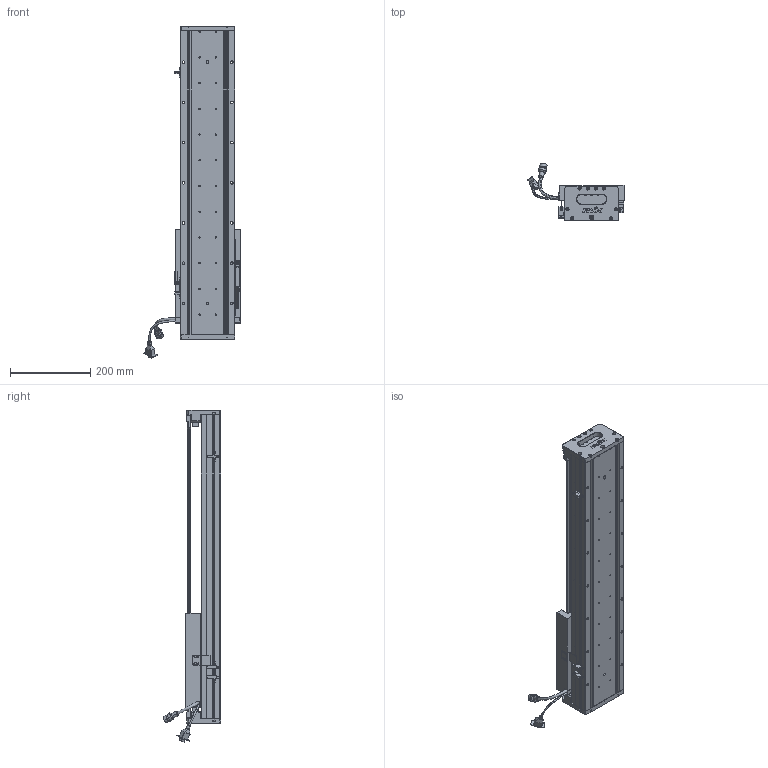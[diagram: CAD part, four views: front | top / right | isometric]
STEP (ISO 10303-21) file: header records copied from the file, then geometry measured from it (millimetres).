
FILE_DESCRIPTION (( 'STEP AP203' ), '1' );
FILE_NAME ('Z3-RY140D-1-L500-B-K.SLDASM_0450.step', '2021-05-17T08:00:13', ( '盈信电脑' ), ( '东莞市道滘镇水果街19号' ), 'SwSTEP 2.0', 'SolidWorks 2016', '' );
FILE_SCHEMA (( 'CONFIG_CONTROL_DESIGN' ));
Length unit declared in the file: millimetre
Products named in the file (36): SEAL; SCALE-Part-2; 140蚥薯蝶輸; SCREW-M1.6-2; COVER; 080黍杅芛假蚾釱21遴; LABEL-Part-1; Z-RY140感应器672光电感应片; LABEL; PSLH080_PSLF2; 140雄赽晤鎢ん堤盄; SCREW-M1.6; Z-140詩湍傷裔啣; HARNESS-Part-1; PBU_SHEET; Z3-RY140D-1-L500-B-K.SLDASM_0450; SHIELDPLATE; Z3-RY140圉猾敕臏賑輸(21遴); Z3-RY140-L500直线电机模组底座_0450; SCALE-Part-1; SCREW-M1.6-1; SCREW-M1.7; 覜茼ん672; SEAL-Part-1; 榋妏寠巭燃_暯_M2_2; Z3-RY140-L500詩湍100mm遵_0450; 140-Z-臏賑輸盄裔(21遴); SCREW-M1.7-1; SCREW-M1.6-3; HARNESS-Part-2; Z-RY140詩湍奻揤裔; HARNESS; COVER-Part-1; Z-RY140詩湍狟揤裔; SCALE; HOLDER0
Assembly tree (41 placements, depth 4):
  Z3-RY140D-1-L500-B-K.SLDASM_0450
    Z3-RY140-L500直线电机模组底座_0450
    Z-RY140感应器672光电感应片
    Z3-RY140圉猾敕臏賑輸(21遴)
    覜茼ん672  x3
    Z3-RY140-L500詩湍100mm遵_0450
    PSLH080_PSLF2
      SCALE
        SCALE-Part-1
        SCALE-Part-2
      HARNESS
        HARNESS-Part-1
        HARNESS-Part-2
      LABEL
        LABEL-Part-1
      COVER
        COVER-Part-1
      SEAL
        SEAL-Part-1
      榋妏寠巭燃_暯_M2_2
      SHIELDPLATE
      SCREW-M1.7
      SCREW-M1.7-1
      PBU_SHEET
      SCREW-M1.6
      SCREW-M1.6-1
      SCREW-M1.6-2
      SCREW-M1.6-3
      HOLDER0
    080黍杅芛假蚾釱21遴
    140-Z-臏賑輸盄裔(21遴)
    Z-140詩湍傷裔啣  x2
    Z-RY140詩湍狟揤裔  x2
    Z-RY140詩湍奻揤裔  x2
    140蚥薯蝶輸  x2
    140雄赽晤鎢ん堤盄
Bounding box: 239.84 x 143.88 x 825.88 mm (x, y, z)
Volume: 3340533.1 mm3; surface area: 855630.5 mm2
Topology: 36 solids, 36 shells, 2762 faces, 7218 edges, 4565 vertices
Faces by surface type: cylinder 1256, plane 1102, cone 282, torus 69, bspline 53
Entity records: 79138 total; most frequent: CARTESIAN_POINT 19229, DIRECTION 11718, ORIENTED_EDGE 11596, EDGE_CURVE 5798, AXIS2_PLACEMENT_3D 4302, VERTEX_POINT 3733, VECTOR 3114, LINE 3114
